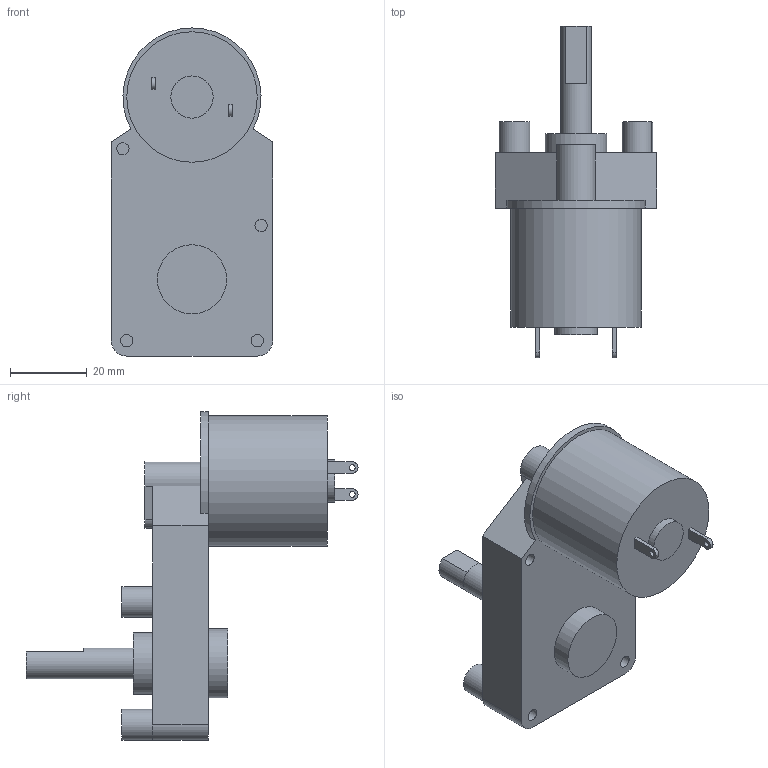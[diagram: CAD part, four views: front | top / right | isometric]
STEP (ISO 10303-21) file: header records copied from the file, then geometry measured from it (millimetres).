
FILE_DESCRIPTION((''),'2;1');
FILE_NAME('E:\2공장-도면\3D\표준형 3D(민규)\1공장 step\KME F TYPE.stp','2015-02-26T17:26:34',('AHN'),(''),'Autodesk Inventor 2012','Autodesk Inventor 2012','');
FILE_SCHEMA(('CONFIG_CONTROL_DESIGN'));
Length unit declared in the file: millimetre
Products named in the file (1): KME F타입
Bounding box: 42 x 86.5 x 85.5 mm (x, y, z)
Volume: 73065.1 mm3; surface area: 15670.2 mm2
Topology: 1 solids, 1 shells, 64 faces, 131 edges, 86 vertices
Faces by surface type: plane 38, cylinder 26
Full cylindrical faces by diameter (mm): 1.5 x2, 3.2 x4, 4.5 x4, 7.28 x1, 8 x4, 11 x1, 16 x1, 18 x1, 34 x1
Entity records: 1608 total; most frequent: DIRECTION 292, CARTESIAN_POINT 257, ORIENTED_EDGE 218, AXIS2_PLACEMENT_3D 118, EDGE_CURVE 109, EDGE_LOOP 104, VERTEX_POINT 83, FACE_OUTER_BOUND 64
